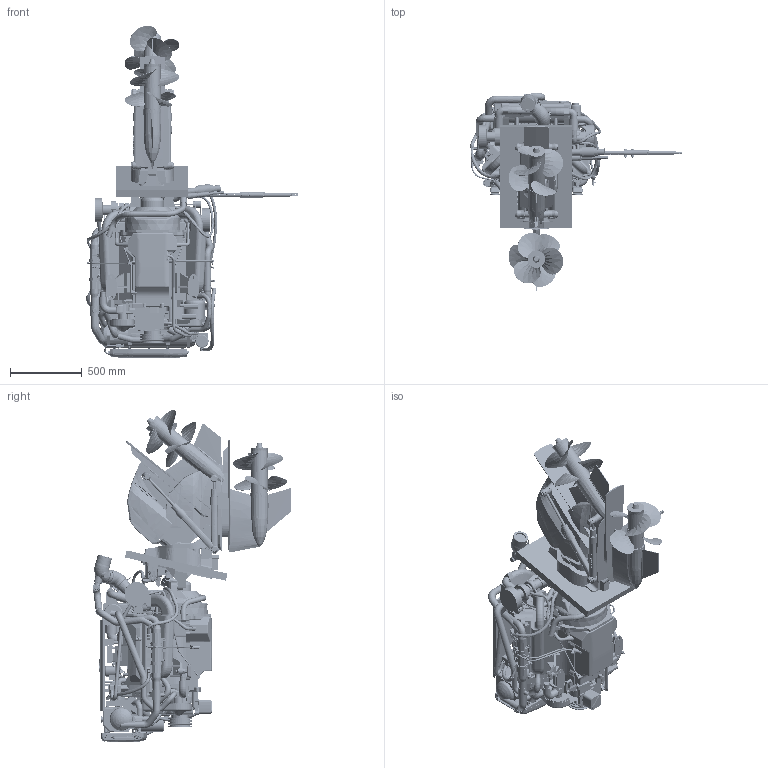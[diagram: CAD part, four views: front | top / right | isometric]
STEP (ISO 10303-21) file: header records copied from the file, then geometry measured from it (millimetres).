
FILE_DESCRIPTION((''),'2;1');
FILE_NAME('00_8LVZ_FULL_ASM','2020-01-08T',('ib46307'),('YANMAR CO., LTD.'),'PRO/ENGINEER BY PARAMETRIC TECHNOLOGY CORPORATION, 2015360','PRO/ENGINEER BY PARAMETRIC TECHNOLOGY CORPORATION, 2015360','');
FILE_SCHEMA(('CONFIG_CONTROL_DESIGN'));
Products named in the file (113): BREP_WITH_VOIDS_151432; MANIFOLD_SOLID_BREP_154522; MANIFOLD_SOLID_BREP_155844; MANIFOLD_SOLID_BREP_157168; MANIFOLD_SOLID_BREP_157311; MANIFOLD_SOLID_BREP_157454; MANIFOLD_SOLID_BREP_157597; MANIFOLD_SOLID_BREP_157740; MANIFOLD_SOLID_BREP_157883; PUB-8LV-BASE-SW01_1_ASM; D19799-01300-SW01-L_1; MANIFOLD_SOLID_BREP_163775; MANIFOLD_SOLID_BREP_166203; D19798-07320-SW01-L_1_ASM; D19798-09110-SW01-L_1; D19798-77350-SW01-L_1; B2-19799-001X-L_ASM_1_ASM; MANIFOLD_SOLID_BREP_234792; MANIFOLD_SOLID_BREP_240002; D19799-08530-SW01-L_1_ASM; B2-19799-002X-L_ASM_1_ASM; PUB-8LVZ_ASM_1_ASM; 00_BASE_ASM; D19799-26100-SW01-L_1; D19799-2652X-SW01-L_1; D19799-26530-SW01_1; BREP_WITH_VOIDS_24920; MANIFOLD_SOLID_BREP_36028; MANIFOLD_SOLID_BREP_38283; MANIFOLD_SOLID_BREP_38575; D19799-2661X-SW01-L_1_ASM; MANIFOLD_SOLID_BREP_40303; MANIFOLD_SOLID_BREP_41808; D19799-49531-SW01-L_1_ASM; ASM0002_ASM; D-ZT350-8LV-ST_1; ASM0003_ASM; ASM0001_ASM; 01_POWER_STEERING_ASM; MANIFOLD_SOLID_BREP_1402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
Assembly tree (112 placements, depth 6):
  00_8LVZ_FULL_ASM
    00_BASE_ASM
      PUB-8LVZ_ASM_1_ASM
        B2-19799-001X-L_ASM_1_ASM
          PUB-8LV-BASE-SW01_1_ASM
            BREP_WITH_VOIDS_151432
            MANIFOLD_SOLID_BREP_154522
            MANIFOLD_SOLID_BREP_155844
            MANIFOLD_SOLID_BREP_157168
            MANIFOLD_SOLID_BREP_157311
            MANIFOLD_SOLID_BREP_157454
            MANIFOLD_SOLID_BREP_157597
            MANIFOLD_SOLID_BREP_157740
            MANIFOLD_SOLID_BREP_157883
          D19799-01300-SW01-L_1
          D19798-07320-SW01-L_1_ASM
            MANIFOLD_SOLID_BREP_163775
            MANIFOLD_SOLID_BREP_166203
          D19798-09110-SW01-L_1
          D19798-77350-SW01-L_1
        B2-19799-002X-L_ASM_1_ASM
          D19799-08530-SW01-L_1_ASM
            MANIFOLD_SOLID_BREP_234792
            MANIFOLD_SOLID_BREP_240002
    01_POWER_STEERING_ASM
      ASM0001_ASM
        ASM0002_ASM
          D19799-26100-SW01-L_1
          D19799-2652X-SW01-L_1
          D19799-26530-SW01_1
          D19799-2661X-SW01-L_1_ASM
            BREP_WITH_VOIDS_24920
            MANIFOLD_SOLID_BREP_36028
            MANIFOLD_SOLID_BREP_38283
            MANIFOLD_SOLID_BREP_38575
          D19799-49531-SW01-L_1_ASM
            MANIFOLD_SOLID_BREP_40303
            MANIFOLD_SOLID_BREP_41808
        ASM0003_ASM
          D-ZT350-8LV-ST_1
    01_TIE-BAR_ASM
      ASM0004_ASM
        ASM0005_ASM
          D19799-49511-SW01-L_2_ASM
            MANIFOLD_SOLID_BREP_1402
            MANIFOLD_SOLID_BREP_2138
          D19799-4954X-SW01-L_1_ASM
            MANIFOLD_SOLID_BREP_16763
            MANIFOLD_SOLID_BREP_21089
        ASM0006_ASM
          119781-84000-8LV-SW01-L_1
    02_DIPSTICK_LEFT_POWER_STEERING_ASM
      PUB-8LVZ_ASM_7_ASM
        B2-19799-002X-L_ASM_3_ASM
          D19799-34110-SW01-L_1_ASM
            MANIFOLD_SOLID_BREP_5438
            MANIFOLD_SOLID_BREP_6360
    02_DIPSTICK_LEFT_TIE-BAR_ASM
      ASM0007_ASM
        ASM0008_ASM
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Bounding box: 1476.22 x 1383.72 x 2316.46 mm (x, y, z)
Volume: 397126741.5 mm3; surface area: 21987223.5 mm2
Topology: 59 solids, 63 shells, 12549 faces, 35228 edges, 23280 vertices
Faces by surface type: plane 5727, cylinder 4035, bspline 1165, torus 916, cone 436, extrusion 157, sphere 104, revolution 9
Entity records: 504518 total; most frequent: CARTESIAN_POINT 182394, ORIENTED_EDGE 70230, DIRECTION 63763, EDGE_CURVE 35115, VERTEX_POINT 23280, AXIS2_PLACEMENT_3D 23057, VECTOR 17640, LINE 17483
